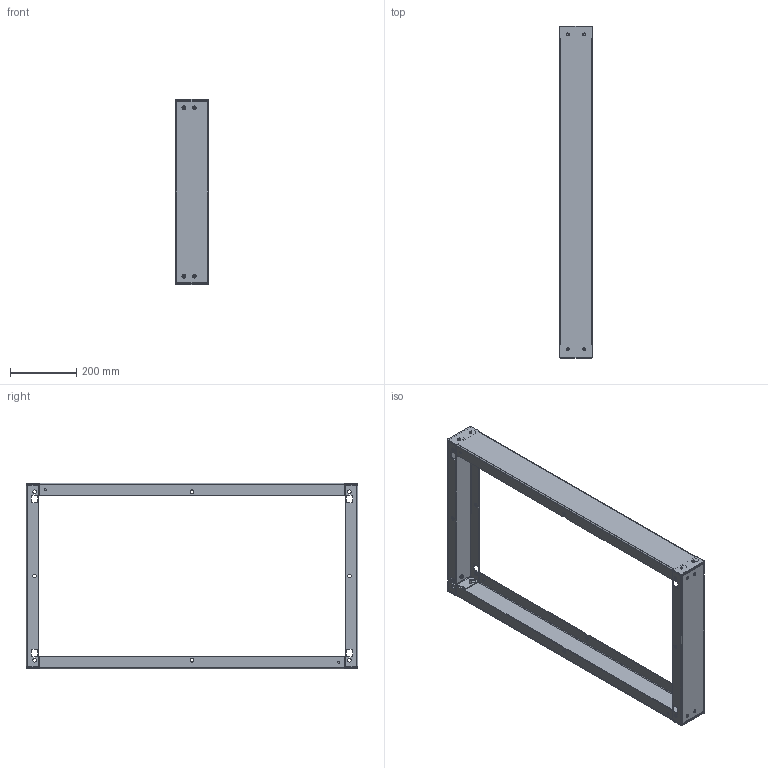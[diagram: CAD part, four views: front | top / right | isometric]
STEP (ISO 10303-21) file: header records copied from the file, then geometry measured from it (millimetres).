
FILE_DESCRIPTION((''),'2;1');
FILE_NAME('MODEL-262_ASM','2015-02-12T',('johnh'),('SAGINAW CONTROL & ENGINEERING'),'PRO/ENGINEER BY PARAMETRIC TECHNOLOGY CORPORATION, 2012070','PRO/ENGINEER BY PARAMETRIC TECHNOLOGY CORPORATION, 2012070','');
FILE_SCHEMA(('AUTOMOTIVE_DESIGN { 1 0 10303 214 1 1 1 1 }'));
Length unit declared in the file: inch
Products named in the file (6): MODEL-262-SIDE-CHNL; MODEL-262-FB-CHNL; 100064; 100028; 108622; MODEL-262_ASM
Assembly tree (21 placements, depth 2):
  MODEL-262_ASM
    MODEL-262-SIDE-CHNL  x2
    MODEL-262-FB-CHNL  x2
    100064  x8
    100028  x8
    108622
Bounding box: 100.08 x 1000 x 559.05 mm (x, y, z)
Volume: 1371457.2 mm3; surface area: 1066701.4 mm2
Topology: 20 solids, 20 shells, 696 faces, 1744 edges, 1104 vertices
Faces by surface type: cylinder 336, plane 240, torus 48, bspline 40, cone 32
Entity records: 12431 total; most frequent: CARTESIAN_POINT 2794, DIRECTION 1536, ORIENTED_EDGE 1444, PRESENTATION_STYLE_ASSIGNMENT 726, STYLED_ITEM 726, CURVE_STYLE 722, EDGE_CURVE 722, AXIS2_PLACEMENT_3D 561
